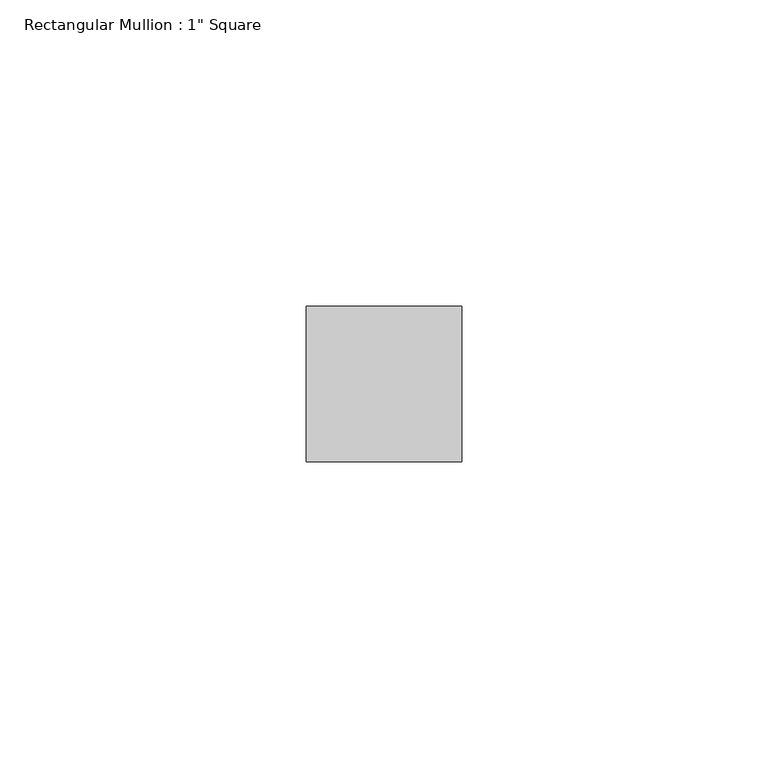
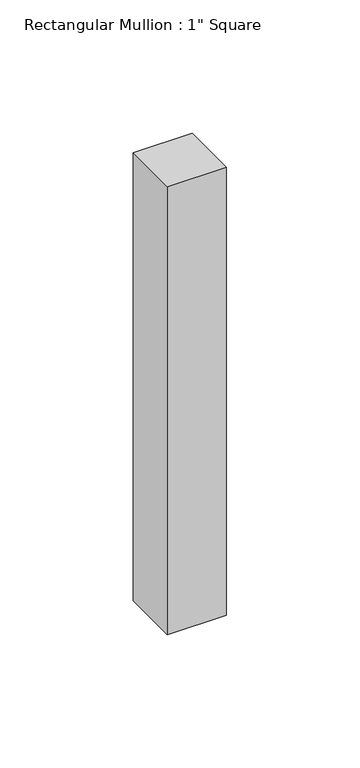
"""IFC4 building model written with IfcOpenShell, lengths in millimetres: member geometry."""

from ifc_helpers import new_model, si_unit, frame, origin, place, context, project, spatial, polyline, outline, extrude, source, transform, mapped, element, save


def member_c3b58052(model_context):
    return source(origin(), model_context, "Body", "SweptSolid", [
        extrude(outline(polyline([(0.0, 12.7), (0.0, -12.7), (-25.4, -12.7), (-25.4, 12.7), (0.0, 12.7)])), frame((0.0, 0.0, -204.8337265), z_axis=(0.0, 0.0, 1.0), x_axis=(1.0, 0.0, 0.0)), (0.0, 0.0, 1.0), 204.8337265),
    ])


if __name__ == "__main__":
    model = new_model("IFC4")
    model_context = context("Model", 3, world=origin())
    ifc_project = project(units=[si_unit("LENGTHUNIT", "METRE", prefix="MILLI")], contexts=[model_context])
    site = spatial("IfcSite", under=ifc_project)
    building = spatial("IfcBuilding", under=site)
    placement = place(None, origin())
    member_shape = member_c3b58052(model_context)
    element("IfcMember", 1, ObjectType="Rectangular Mullion : 1\" Square", at=placement, inside=building, context=model_context, shape_type="MappedRepresentation", body=[
        mapped(member_shape, transform((0.0, 0.0, 0.0), x_axis=(1.0, 0.0, 0.0), y_axis=(0.0, 1.0, 0.0), z_axis=(0.0, 0.0, 1.0))),
    ])
    save(model, "model.ifc")
